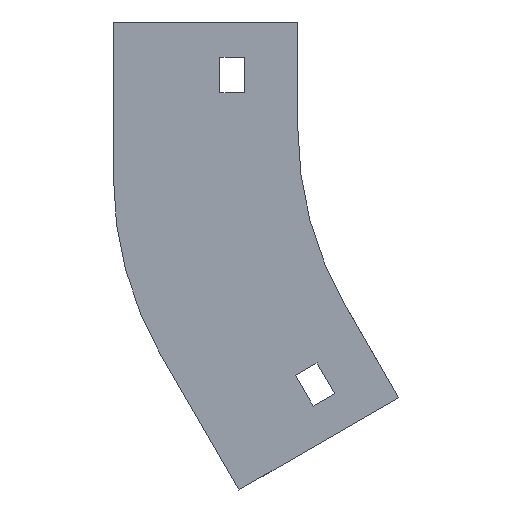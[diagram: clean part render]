
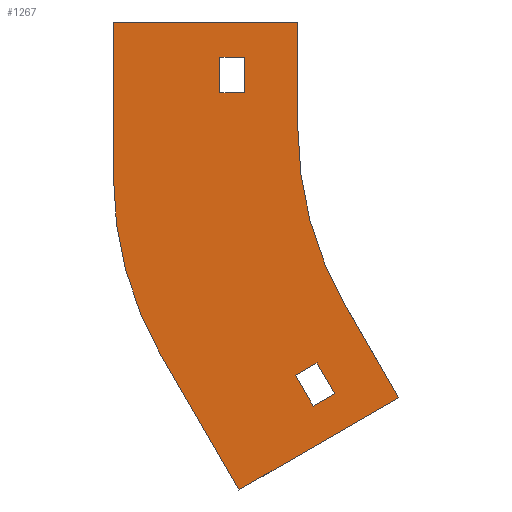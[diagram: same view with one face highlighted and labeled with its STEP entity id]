
A CAD part, left-side view. The second image highlights one B-rep face of the part: STEP entity #1267.
In plain terms, the highlighted planar face has unit normal (-1, 0, 0).
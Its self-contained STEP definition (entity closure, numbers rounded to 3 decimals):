
#1 = DIRECTION ( 'NONE',  ( 0., -1., 0. ) ) ;
#4 = CARTESIAN_POINT ( 'NONE',  ( -27., 16.636, -131.981 ) ) ;
#20 = LINE ( 'NONE', #1297, #238 ) ;
#25 = LINE ( 'NONE', #768, #777 ) ;
#46 = VERTEX_POINT ( 'NONE', #864 ) ;
#50 = CARTESIAN_POINT ( 'NONE',  ( -27., -10.407, -104.821 ) ) ;
#89 = CARTESIAN_POINT ( 'NONE',  ( -27., -28.397, -105.981 ) ) ;
#107 = LINE ( 'NONE', #213, #440 ) ;
#113 = DIRECTION ( 'NONE',  ( 0., 0.5, 0.866 ) ) ;
#136 = ORIENTED_EDGE ( 'NONE', *, *, #1126, .F. ) ;
#141 = EDGE_CURVE ( 'NONE', #855, #1257, #154, .T. ) ;
#154 = LINE ( 'NONE', #50, #1237 ) ;
#155 = ORIENTED_EDGE ( 'NONE', *, *, #211, .F. ) ;
#157 = CARTESIAN_POINT ( 'NONE',  ( -27., 0., 0. ) ) ;
#169 = EDGE_CURVE ( 'NONE', #920, #423, #1230, .T. ) ;
#201 = LINE ( 'NONE', #222, #349 ) ;
#207 = CARTESIAN_POINT ( 'NONE',  ( -27., -10.407, -104.821 ) ) ;
#211 = EDGE_CURVE ( 'NONE', #257, #732, #962, .T. ) ;
#213 = CARTESIAN_POINT ( 'NONE',  ( -27., 22., -10. ) ) ;
#218 = LINE ( 'NONE', #965, #608 ) ;
#219 = DIRECTION ( 'NONE',  ( 0., -1., 0. ) ) ;
#222 = CARTESIAN_POINT ( 'NONE',  ( -27., -13.397, -80. ) ) ;
#238 = VECTOR ( 'NONE', #1180, 1000. ) ;
#250 = DIRECTION ( 'NONE',  ( 0., 0., 1. ) ) ;
#257 = VERTEX_POINT ( 'NONE', #818 ) ;
#269 = ORIENTED_EDGE ( 'NONE', *, *, #605, .F. ) ;
#294 = EDGE_CURVE ( 'NONE', #1380, #46, #1140, .T. ) ;
#327 = CARTESIAN_POINT ( 'NONE',  ( -27., 15., -10. ) ) ;
#329 = CARTESIAN_POINT ( 'NONE',  ( -27., 22., -10. ) ) ;
#331 = CIRCLE ( 'NONE', #1283, 100. ) ;
#340 = CARTESIAN_POINT ( 'NONE',  ( -27., -100., -30. ) ) ;
#349 = VECTOR ( 'NONE', #727, 1000. ) ;
#372 = CARTESIAN_POINT ( 'NONE',  ( -27., 52., 0. ) ) ;
#399 = CARTESIAN_POINT ( 'NONE',  ( -27., 52., -43.933 ) ) ;
#403 = CARTESIAN_POINT ( 'NONE',  ( -27., 22., -10. ) ) ;
#406 = VERTEX_POINT ( 'NONE', #652 ) ;
#413 = ORIENTED_EDGE ( 'NONE', *, *, #480, .F. ) ;
#423 = VERTEX_POINT ( 'NONE', #743 ) ;
#428 = VECTOR ( 'NONE', #1254, 1000. ) ;
#430 = ORIENTED_EDGE ( 'NONE', *, *, #450, .F. ) ;
#435 = FACE_BOUND ( 'NONE', #1396, .T. ) ;
#440 = VECTOR ( 'NONE', #219, 1000. ) ;
#450 = EDGE_CURVE ( 'NONE', #535, #1108, #218, .T. ) ;
#473 = EDGE_LOOP ( 'NONE', ( #1005, #136, #963, #1284 ) ) ;
#480 = EDGE_CURVE ( 'NONE', #732, #535, #25, .T. ) ;
#487 = DIRECTION ( 'NONE',  ( 0., 0.5, 0.866 ) ) ;
#499 = EDGE_CURVE ( 'NONE', #1310, #1211, #761, .T. ) ;
#504 = CARTESIAN_POINT ( 'NONE',  ( -27., 22., -20. ) ) ;
#516 = EDGE_CURVE ( 'NONE', #1257, #1310, #1329, .T. ) ;
#521 = VECTOR ( 'NONE', #1309, 1000. ) ;
#535 = VERTEX_POINT ( 'NONE', #372 ) ;
#553 = AXIS2_PLACEMENT_3D ( 'NONE', #626, #1170, #640 ) ;
#568 = DIRECTION ( 'NONE',  ( 1., 0., 0. ) ) ;
#576 = VECTOR ( 'NONE', #856, 1000. ) ;
#592 = ORIENTED_EDGE ( 'NONE', *, *, #1369, .T. ) ;
#603 = CARTESIAN_POINT ( 'NONE',  ( -27., 0., 0. ) ) ;
#605 = EDGE_CURVE ( 'NONE', #1108, #879, #817, .T. ) ;
#608 = VECTOR ( 'NONE', #1, 1000. ) ;
#626 = CARTESIAN_POINT ( 'NONE',  ( -27., -100., -30. ) ) ;
#633 = CARTESIAN_POINT ( 'NONE',  ( -27., -4.345, -108.321 ) ) ;
#640 = DIRECTION ( 'NONE',  ( 0., 0., 1. ) ) ;
#649 = CARTESIAN_POINT ( 'NONE',  ( -27., 15., -20. ) ) ;
#652 = CARTESIAN_POINT ( 'NONE',  ( -27., -13.397, -80. ) ) ;
#654 = DIRECTION ( 'NONE',  ( -1., 0., 0. ) ) ;
#655 = VERTEX_POINT ( 'NONE', #403 ) ;
#677 = LINE ( 'NONE', #4, #1043 ) ;
#691 = ORIENTED_EDGE ( 'NONE', *, *, #1168, .T. ) ;
#693 = VECTOR ( 'NONE', #1087, 1000. ) ;
#715 = ORIENTED_EDGE ( 'NONE', *, *, #769, .T. ) ;
#721 = VECTOR ( 'NONE', #1285, 1000. ) ;
#727 = DIRECTION ( 'NONE',  ( 0., -0.5, -0.866 ) ) ;
#732 = VERTEX_POINT ( 'NONE', #399 ) ;
#743 = CARTESIAN_POINT ( 'NONE',  ( -27., 16.636, -131.981 ) ) ;
#745 = CARTESIAN_POINT ( 'NONE',  ( -27., -5.407, -96.16 ) ) ;
#761 = LINE ( 'NONE', #782, #521 ) ;
#768 = CARTESIAN_POINT ( 'NONE',  ( -27., 52., -43.933 ) ) ;
#769 = EDGE_CURVE ( 'NONE', #46, #655, #1407, .T. ) ;
#772 = DIRECTION ( 'NONE',  ( 0., 0., 1. ) ) ;
#777 = VECTOR ( 'NONE', #250, 1000. ) ;
#782 = CARTESIAN_POINT ( 'NONE',  ( -27., -4.345, -108.321 ) ) ;
#784 = CARTESIAN_POINT ( 'NONE',  ( -27., -28.397, -105.981 ) ) ;
#800 = ORIENTED_EDGE ( 'NONE', *, *, #169, .F. ) ;
#817 = LINE ( 'NONE', #603, #959 ) ;
#818 = CARTESIAN_POINT ( 'NONE',  ( -27., 38.603, -93.933 ) ) ;
#835 = EDGE_CURVE ( 'NONE', #406, #920, #201, .T. ) ;
#839 = CARTESIAN_POINT ( 'NONE',  ( -27., -4.345, -108.321 ) ) ;
#846 = ORIENTED_EDGE ( 'NONE', *, *, #1391, .F. ) ;
#853 = PLANE ( 'NONE',  #553 ) ;
#855 = VERTEX_POINT ( 'NONE', #207 ) ;
#856 = DIRECTION ( 'NONE',  ( 0., 0., 1. ) ) ;
#864 = CARTESIAN_POINT ( 'NONE',  ( -27., 22., -20. ) ) ;
#878 = CARTESIAN_POINT ( 'NONE',  ( -27., 0.655, -99.66 ) ) ;
#879 = VERTEX_POINT ( 'NONE', #964 ) ;
#897 = ORIENTED_EDGE ( 'NONE', *, *, #294, .T. ) ;
#920 = VERTEX_POINT ( 'NONE', #89 ) ;
#959 = VECTOR ( 'NONE', #1348, 1000. ) ;
#962 = CIRCLE ( 'NONE', #1146, 100. ) ;
#963 = ORIENTED_EDGE ( 'NONE', *, *, #499, .F. ) ;
#964 = CARTESIAN_POINT ( 'NONE',  ( -27., 0., -30. ) ) ;
#965 = CARTESIAN_POINT ( 'NONE',  ( -27., 52., 0. ) ) ;
#990 = DIRECTION ( 'NONE',  ( 0., 0., -1. ) ) ;
#1005 = ORIENTED_EDGE ( 'NONE', *, *, #141, .F. ) ;
#1043 = VECTOR ( 'NONE', #113, 1000. ) ;
#1059 = CARTESIAN_POINT ( 'NONE',  ( -27., 0.655, -99.66 ) ) ;
#1087 = DIRECTION ( 'NONE',  ( 0., 0.866, -0.5 ) ) ;
#1096 = CARTESIAN_POINT ( 'NONE',  ( -27., -48., -43.933 ) ) ;
#1102 = ORIENTED_EDGE ( 'NONE', *, *, #835, .F. ) ;
#1108 = VERTEX_POINT ( 'NONE', #157 ) ;
#1126 = EDGE_CURVE ( 'NONE', #1211, #855, #1397, .T. ) ;
#1140 = LINE ( 'NONE', #504, #428 ) ;
#1146 = AXIS2_PLACEMENT_3D ( 'NONE', #1096, #568, #990 ) ;
#1168 = EDGE_CURVE ( 'NONE', #655, #1215, #107, .T. ) ;
#1170 = DIRECTION ( 'NONE',  ( -1., 0., 0. ) ) ;
#1176 = FACE_BOUND ( 'NONE', #473, .T. ) ;
#1180 = DIRECTION ( 'NONE',  ( 0., 0., -1. ) ) ;
#1187 = VECTOR ( 'NONE', #1324, 1000. ) ;
#1211 = VERTEX_POINT ( 'NONE', #839 ) ;
#1215 = VERTEX_POINT ( 'NONE', #327 ) ;
#1225 = ORIENTED_EDGE ( 'NONE', *, *, #1405, .F. ) ;
#1230 = LINE ( 'NONE', #784, #1187 ) ;
#1237 = VECTOR ( 'NONE', #487, 1000. ) ;
#1241 = EDGE_LOOP ( 'NONE', ( #430, #413, #155, #846, #800, #1102, #1225, #269 ) ) ;
#1254 = DIRECTION ( 'NONE',  ( 0., 1., 0. ) ) ;
#1257 = VERTEX_POINT ( 'NONE', #745 ) ;
#1267 = ADVANCED_FACE ( 'NONE', ( #435, #1375, #1176 ), #853, .T. ) ;
#1283 = AXIS2_PLACEMENT_3D ( 'NONE', #340, #654, #772 ) ;
#1284 = ORIENTED_EDGE ( 'NONE', *, *, #516, .F. ) ;
#1285 = DIRECTION ( 'NONE',  ( 0., -0.866, 0.5 ) ) ;
#1297 = CARTESIAN_POINT ( 'NONE',  ( -27., 15., -10. ) ) ;
#1309 = DIRECTION ( 'NONE',  ( 0., -0.5, -0.866 ) ) ;
#1310 = VERTEX_POINT ( 'NONE', #1059 ) ;
#1324 = DIRECTION ( 'NONE',  ( 0., 0.866, -0.5 ) ) ;
#1329 = LINE ( 'NONE', #878, #693 ) ;
#1348 = DIRECTION ( 'NONE',  ( 0., 0., -1. ) ) ;
#1369 = EDGE_CURVE ( 'NONE', #1215, #1380, #20, .T. ) ;
#1375 = FACE_OUTER_BOUND ( 'NONE', #1241, .T. ) ;
#1380 = VERTEX_POINT ( 'NONE', #649 ) ;
#1391 = EDGE_CURVE ( 'NONE', #423, #257, #677, .T. ) ;
#1396 = EDGE_LOOP ( 'NONE', ( #691, #592, #897, #715 ) ) ;
#1397 = LINE ( 'NONE', #633, #721 ) ;
#1405 = EDGE_CURVE ( 'NONE', #879, #406, #331, .T. ) ;
#1407 = LINE ( 'NONE', #329, #576 ) ;
